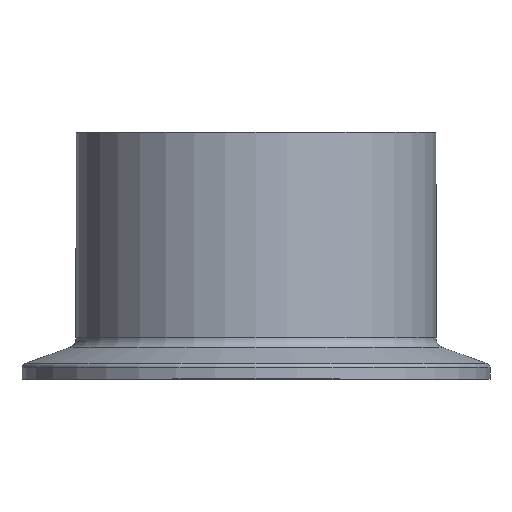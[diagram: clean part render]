
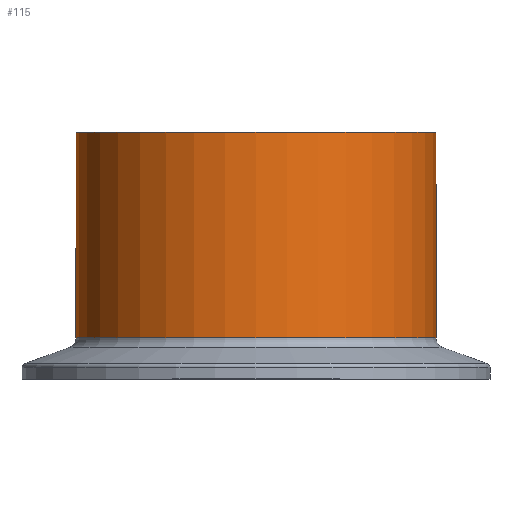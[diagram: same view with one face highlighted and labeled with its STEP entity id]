
A CAD part, top view. The second image highlights one B-rep face of the part: STEP entity #115.
In plain terms, the highlighted cylindrical face has radius 35 mm (diameter 70 mm), a full revolution.
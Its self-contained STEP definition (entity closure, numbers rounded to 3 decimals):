
#73=CARTESIAN_POINT('',(35.,48.,0.0));
#74=VERTEX_POINT('',#73);
#75=CARTESIAN_POINT('',(0.0,48.,0.0));
#76=DIRECTION('',(0.0,-1.0,0.0));
#77=DIRECTION('',(1.0,0.0,0.0));
#78=AXIS2_PLACEMENT_3D('',#75,#76,#77);
#79=CIRCLE('',#78,35.);
#80=EDGE_CURVE('',#74,#74,#79,.T.);
#96=CARTESIAN_POINT('',(0.0,28.036,0.0));
#97=DIRECTION('',(0.0,-1.0,0.0));
#98=DIRECTION('',(1.0,0.0,0.0));
#99=AXIS2_PLACEMENT_3D('',#96,#97,#98);
#100=CYLINDRICAL_SURFACE('',#99,35.0);
#101=CARTESIAN_POINT('',(35.,8.072,0.0));
#102=VERTEX_POINT('',#101);
#103=CARTESIAN_POINT('',(0.0,8.072,0.0));
#104=DIRECTION('',(0.0,-1.0,0.0));
#105=DIRECTION('',(1.0,0.0,0.0));
#106=AXIS2_PLACEMENT_3D('',#103,#104,#105);
#107=CIRCLE('',#106,35.);
#108=EDGE_CURVE('',#102,#102,#107,.T.);
#109=ORIENTED_EDGE('',*,*,#108,.F.);
#110=EDGE_LOOP('',(#109));
#111=FACE_OUTER_BOUND('',#110,.T.);
#112=ORIENTED_EDGE('',*,*,#80,.T.);
#113=EDGE_LOOP('',(#112));
#114=FACE_BOUND('',#113,.T.);
#115=ADVANCED_FACE('',(#111,#114),#100,.T.);
